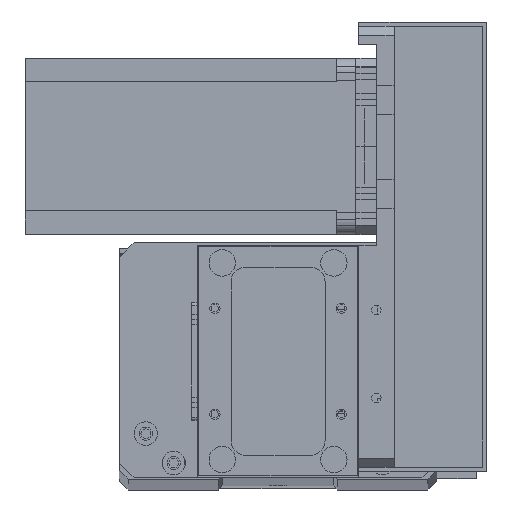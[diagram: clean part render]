
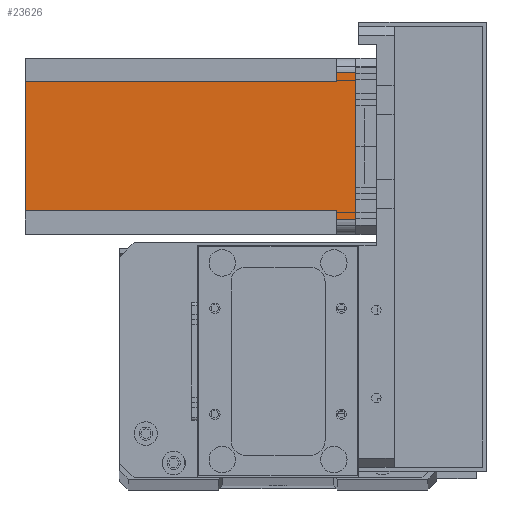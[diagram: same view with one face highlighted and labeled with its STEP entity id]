
A CAD part, top view. The second image highlights one B-rep face of the part: STEP entity #23626.
In plain terms, the highlighted planar face has unit normal (0, 0, 1) as drawn and (0, 1, 0) by its records, which use the part's own axes.
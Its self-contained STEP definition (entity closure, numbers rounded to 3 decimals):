
#282 = EDGE_CURVE ( 'NONE', #11536, #15353, #17917, .T. ) ;
#1761 = CARTESIAN_POINT ( 'NONE',  ( 0., 60., 0. ) ) ;
#2539 = ORIENTED_EDGE ( 'NONE', *, *, #2574, .F. ) ;
#2574 = EDGE_CURVE ( 'NONE', #8093, #13460, #27449, .T. ) ;
#2866 = LINE ( 'NONE', #22155, #14778 ) ;
#3113 = DIRECTION ( 'NONE',  ( 0., 0., 1. ) ) ;
#3623 = AXIS2_PLACEMENT_3D ( 'NONE', #30476, #22937, #7728 ) ;
#5023 = VECTOR ( 'NONE', #6035, 1000. ) ;
#5155 = PLANE ( 'NONE',  #3623 ) ;
#5612 = ORIENTED_EDGE ( 'NONE', *, *, #25515, .F. ) ;
#6035 = DIRECTION ( 'NONE',  ( 1., 0., 0. ) ) ;
#6082 = LINE ( 'NONE', #25585, #12057 ) ;
#6563 = VECTOR ( 'NONE', #13708, 1000. ) ;
#6876 = CARTESIAN_POINT ( 'NONE',  ( 8., 60., -6.5 ) ) ;
#7217 = DIRECTION ( 'NONE',  ( -1., 0., 0. ) ) ;
#7728 = DIRECTION ( 'NONE',  ( 0., 0., 1. ) ) ;
#7969 = VECTOR ( 'NONE', #29249, 1000. ) ;
#8045 = CARTESIAN_POINT ( 'NONE',  ( 5., 60., -6.5 ) ) ;
#8093 = VERTEX_POINT ( 'NONE', #6876 ) ;
#8650 = ORIENTED_EDGE ( 'NONE', *, *, #32578, .T. ) ;
#9110 = EDGE_CURVE ( 'NONE', #25366, #27731, #27058, .T. ) ;
#10358 = LINE ( 'NONE', #26670, #14704 ) ;
#10491 = ORIENTED_EDGE ( 'NONE', *, *, #282, .F. ) ;
#11536 = VERTEX_POINT ( 'NONE', #15061 ) ;
#11575 = CARTESIAN_POINT ( 'NONE',  ( 8., 60., -112.5 ) ) ;
#12057 = VECTOR ( 'NONE', #12760, 1000. ) ;
#12760 = DIRECTION ( 'NONE',  ( 0., 0., -1. ) ) ;
#13460 = VERTEX_POINT ( 'NONE', #11575 ) ;
#13708 = DIRECTION ( 'NONE',  ( 0., 0., 1. ) ) ;
#13726 = ORIENTED_EDGE ( 'NONE', *, *, #13916, .T. ) ;
#13916 = EDGE_CURVE ( 'NONE', #11536, #16967, #6082, .T. ) ;
#14704 = VECTOR ( 'NONE', #31759, 1000. ) ;
#14778 = VECTOR ( 'NONE', #32269, 1000. ) ;
#15061 = CARTESIAN_POINT ( 'NONE',  ( 55., 60., 0. ) ) ;
#15100 = VECTOR ( 'NONE', #3113, 1000. ) ;
#15353 = VERTEX_POINT ( 'NONE', #25953 ) ;
#16967 = VERTEX_POINT ( 'NONE', #20386 ) ;
#17407 = ORIENTED_EDGE ( 'NONE', *, *, #20925, .T. ) ;
#17917 = LINE ( 'NONE', #1761, #31433 ) ;
#18311 = CARTESIAN_POINT ( 'NONE',  ( 52., 60., -112.5 ) ) ;
#20386 = CARTESIAN_POINT ( 'NONE',  ( 55., 60., -6.5 ) ) ;
#20925 = EDGE_CURVE ( 'NONE', #8093, #23703, #2866, .T. ) ;
#21253 = CARTESIAN_POINT ( 'NONE',  ( 52., 60., -6.5 ) ) ;
#21326 = ORIENTED_EDGE ( 'NONE', *, *, #26478, .T. ) ;
#22155 = CARTESIAN_POINT ( 'NONE',  ( 8., 60., -6.5 ) ) ;
#22937 = DIRECTION ( 'NONE',  ( 0., 1., 0. ) ) ;
#23053 = CARTESIAN_POINT ( 'NONE',  ( 52., 60., -112.5 ) ) ;
#23626 = ADVANCED_FACE ( 'NONE', ( #27409 ), #5155, .T. ) ;
#23703 = VERTEX_POINT ( 'NONE', #8045 ) ;
#23829 = CARTESIAN_POINT ( 'NONE',  ( 5., 60., -112.5 ) ) ;
#24436 = CARTESIAN_POINT ( 'NONE',  ( 52., 60., -6.5 ) ) ;
#24534 = LINE ( 'NONE', #21253, #5023 ) ;
#25366 = VERTEX_POINT ( 'NONE', #23053 ) ;
#25515 = EDGE_CURVE ( 'NONE', #27731, #16967, #24534, .T. ) ;
#25585 = CARTESIAN_POINT ( 'NONE',  ( 55., 60., -112.5 ) ) ;
#25871 = ORIENTED_EDGE ( 'NONE', *, *, #9110, .F. ) ;
#25953 = CARTESIAN_POINT ( 'NONE',  ( 5., 60., 0. ) ) ;
#26478 = EDGE_CURVE ( 'NONE', #23703, #15353, #27633, .T. ) ;
#26670 = CARTESIAN_POINT ( 'NONE',  ( 0., 60., -112.5 ) ) ;
#26730 = CARTESIAN_POINT ( 'NONE',  ( 8., 60., -112.5 ) ) ;
#27058 = LINE ( 'NONE', #18311, #15100 ) ;
#27409 = FACE_OUTER_BOUND ( 'NONE', #30139, .T. ) ;
#27449 = LINE ( 'NONE', #26730, #7969 ) ;
#27633 = LINE ( 'NONE', #23829, #6563 ) ;
#27731 = VERTEX_POINT ( 'NONE', #24436 ) ;
#29249 = DIRECTION ( 'NONE',  ( 0., 0., -1. ) ) ;
#30139 = EDGE_LOOP ( 'NONE', ( #10491, #13726, #5612, #25871, #8650, #2539, #17407, #21326 ) ) ;
#30476 = CARTESIAN_POINT ( 'NONE',  ( 0., 60., -112.5 ) ) ;
#31433 = VECTOR ( 'NONE', #7217, 1000. ) ;
#31759 = DIRECTION ( 'NONE',  ( -1., 0., 0. ) ) ;
#32269 = DIRECTION ( 'NONE',  ( -1., 0., 0. ) ) ;
#32578 = EDGE_CURVE ( 'NONE', #25366, #13460, #10358, .T. ) ;
